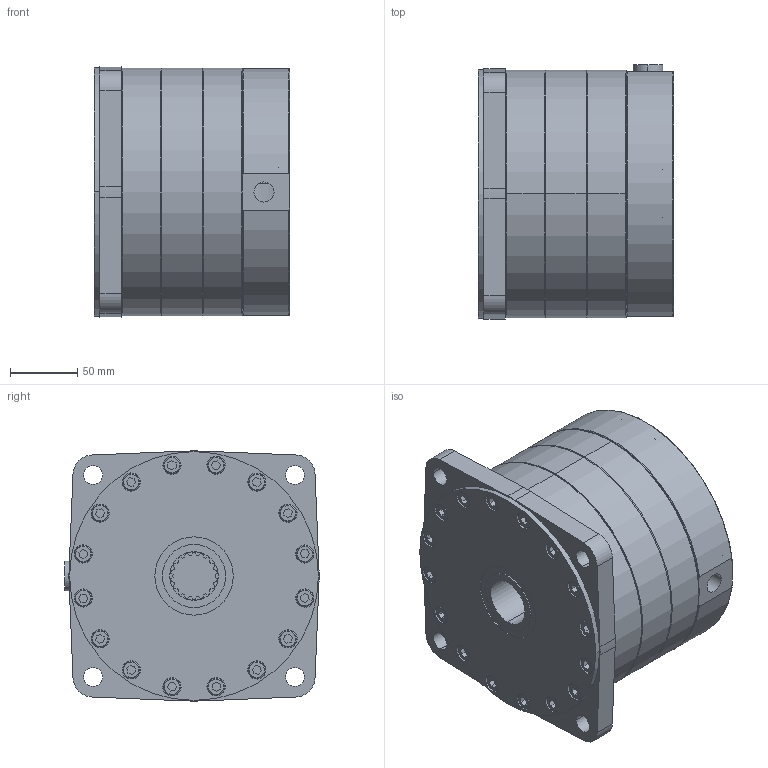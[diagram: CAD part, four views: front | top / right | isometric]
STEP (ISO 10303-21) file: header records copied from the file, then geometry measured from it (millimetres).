
FILE_DESCRIPTION(('Creo Elements/Direct Modeling STEP Export'),'2;1');
FILE_NAME('M14 axial.stp','2017-07-10T14:43:05',(''),(''),'PTC Creo Elements/Direct Modeling STEP processor for AP214 (Solid Model)','PTC Creo Elements/Direct Modeling 19.0C 15-Aug-2015 (C) Parametric Technology GmbH','');
FILE_SCHEMA(('AUTOMOTIVE_DESIGN { 1 0 10303 214 1 1 1 1 }'));
Length unit declared in the file: millimetre
Products named in the file (2): M14
Assembly tree (1 placements, depth 2):
  M14
    M14
Bounding box: 145 x 188.99 x 185.98 mm (x, y, z)
Volume: 3776054.4 mm3; surface area: 203533.3 mm2
Topology: 1 solids, 1 shells, 909 faces, 2289 edges, 1498 vertices
Faces by surface type: plane 543, cylinder 251, cone 60, extrusion 37, torus 18
Entity records: 30862 total; most frequent: CARTESIAN_POINT 6837, ORIENTED_EDGE 4578, DIRECTION 4132, EDGE_CURVE 2289, VECTOR 1656, LINE 1619, VERTEX_POINT 1498, AXIS2_PLACEMENT_3D 1238
